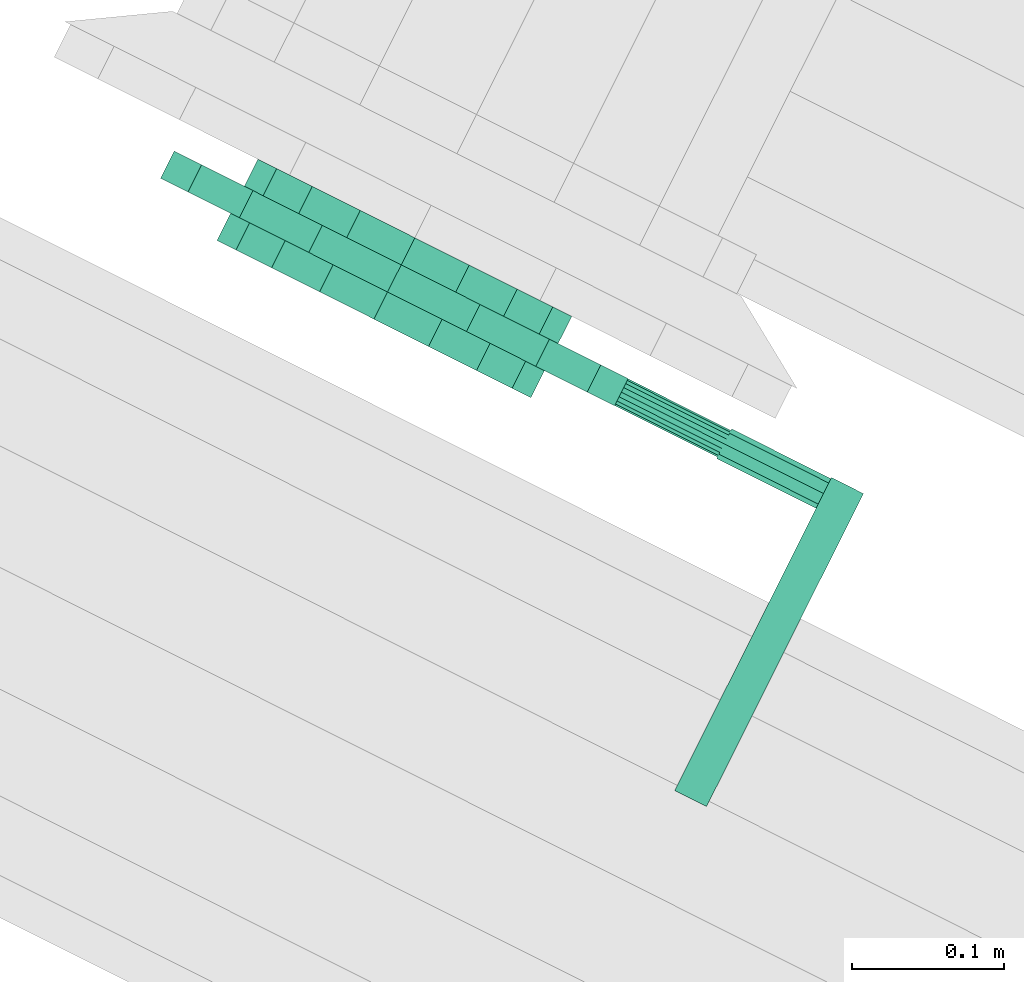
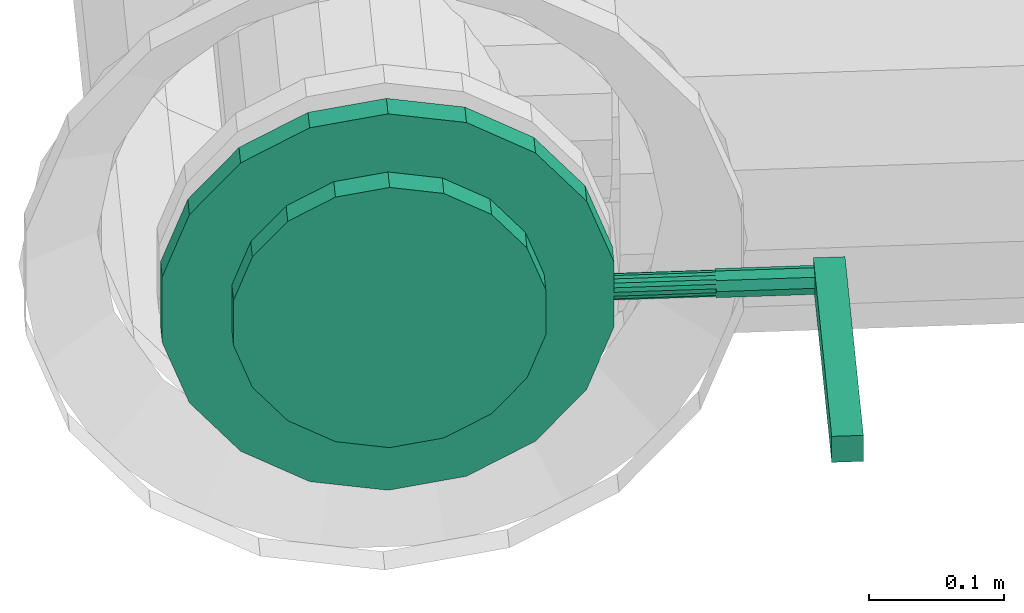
# One storey, part 80 of 152: 1 flow controller.
"""IFC2X3 building model written with IfcOpenShell, lengths in metres."""

import ifcopenshell
import ifcopenshell.guid

model = None  # the IFC model being written
_history = None  # IfcOwnerHistory: only IFC2X3 demands one
_inside = {}  # id of a spatial element -> (the spatial element, [elements in it])
_under = {}  # id of a project, library or spatial element -> (it, [spatial elements below it])
_declared = {}  # id of a project -> (the project, [libraries it declares])
_typed = {}  # id of a type object -> (the type object, [elements of that type])
_made_of = {}  # id of a material, layer set ... -> (it, [elements and type objects made of it])


def new_model(schema):
    """Start an empty IFC model of exactly this schema.

    Asked for "IFC4X3", IfcOpenShell would pick the latest addendum, in which some entities
    have other attributes; the version numbers below select the first issue.
    IFC2X3 requires an IfcOwnerHistory on every rooted entity: one is made here for all.
    """
    global model, _history
    if schema == "IFC4X3":
        model = ifcopenshell.file(schema_version=(4, 3, 0, 0))
    else:
        model = ifcopenshell.file(schema=schema)
    _inside.clear()
    _under.clear()
    _declared.clear()
    _typed.clear()
    _made_of.clear()
    _history = None
    if model.schema == "IFC2X3":
        org = make("IfcOrganization", Name="unknown")
        user = make(
            "IfcPersonAndOrganization",
            ThePerson=make("IfcPerson", FamilyName="unknown"),
            TheOrganization=org,
        )
        app = make(
            "IfcApplication",
            ApplicationDeveloper=org,
            Version="unknown",
            ApplicationFullName="unknown",
            ApplicationIdentifier="unknown",
        )
        _history = make(
            "IfcOwnerHistory",
            OwningUser=user,
            OwningApplication=app,
            ChangeAction="ADDED",
            CreationDate=0,
        )
    return model


def make(cls, **values):
    """One entity of the class cls with the attributes given. An attribute that is None is left unset."""
    return model.create_entity(
        cls, **{name: value for name, value in values.items() if value is not None}
    )


def rooted(cls, **values):
    """An entity with a GlobalId (a new one), such as an element, a storey or a relation."""
    return make(cls, GlobalId=ifcopenshell.guid.new(), OwnerHistory=_history, **values)


def si_unit(unit_type, name, prefix=None):
    """IfcSIUnit, for example si_unit("LENGTHUNIT", "METRE", prefix="MILLI")."""
    return make("IfcSIUnit", UnitType=unit_type, Prefix=prefix, Name=name)


def derived_unit(unit_type, elements):
    """IfcDerivedUnit: a product of units, each with its exponent."""
    return make(
        "IfcDerivedUnit",
        Elements=[
            make("IfcDerivedUnitElement", Unit=unit, Exponent=power)
            for unit, power in elements
        ],
        UnitType=unit_type,
    )


def assignment(units):
    """IfcUnitAssignment: the units of a project."""
    return None if units is None else make("IfcUnitAssignment", Units=units)


def point(xyz):
    """IfcCartesianPoint."""
    return None if xyz is None else make("IfcCartesianPoint", Coordinates=xyz)


def direction(xyz):
    """IfcDirection."""
    return None if xyz is None else make("IfcDirection", DirectionRatios=xyz)


def frame(location, z_axis=None, x_axis=None):
    """IfcAxis2Placement3D, a coordinate frame: its origin and axes. An axis left out is left unset."""
    return make(
        "IfcAxis2Placement3D",
        Location=point(location),
        Axis=direction(z_axis),
        RefDirection=direction(x_axis),
    )


def origin():
    """The frame at (0, 0, 0) with its axes left unset."""
    return frame((0.0, 0.0, 0.0))


def place(relative_to, where):
    """IfcLocalPlacement: puts the frame where relative to a parent placement (None: the world)."""
    return make(
        "IfcLocalPlacement", PlacementRelTo=relative_to, RelativePlacement=where
    )


def context(
    kind, dimensions, precision=None, world=None, true_north=None, identifier=None
):
    """IfcGeometricRepresentationContext, for example the 3D "Model" context."""
    return make(
        "IfcGeometricRepresentationContext",
        ContextIdentifier=identifier,
        ContextType=kind,
        CoordinateSpaceDimension=dimensions,
        Precision=precision,
        WorldCoordinateSystem=world,
        TrueNorth=true_north,
    )


def subcontext(parent, identifier, kind, view, scale=None):
    """IfcGeometricRepresentationSubContext, for example "Body" below "Model"."""
    return make(
        "IfcGeometricRepresentationSubContext",
        ContextIdentifier=identifier,
        ContextType=kind,
        ParentContext=parent,
        TargetScale=scale,
        TargetView=view,
    )


def project(units=None, contexts=None):
    """IfcProject with its units and contexts."""
    return rooted(
        "IfcProject",
        Name="project",
        RepresentationContexts=contexts,
        UnitsInContext=assignment(units),
    )


def spatial(cls, under=None, at=None, **own):
    """A site, building, storey or space (cls), placed at a placement, below another one or the project."""
    s = rooted(cls, ObjectPlacement=at, **own)
    if under is not None:
        _under.setdefault(under.id(), (under, []))[1].append(s)
    return s


def faces_of(points, faces, orient=None, outer=None):
    """IfcFace entities. A face is a list of loops; a loop is a list of indices into points, from 0.

    orient and outer hold one flag for each loop. By default every Orientation is true, the
    first loop of a face is its IfcFaceOuterBound and the others are IfcFaceBound.
    """
    made = []
    for i, loops in enumerate(faces):
        bounds = []
        for j, loop in enumerate(loops):
            is_outer = j == 0 if outer is None else outer[i][j]
            bounds.append(
                make(
                    "IfcFaceOuterBound" if is_outer else "IfcFaceBound",
                    Bound=make("IfcPolyLoop", Polygon=[points[k] for k in loop]),
                    Orientation=True if orient is None else orient[i][j],
                )
            )
        made.append(make("IfcFace", Bounds=bounds))
    return made


def face_set(faces, orient=None, outer=None):
    """The faces of one IfcConnectedFaceSet. surface_model builds it on its shared points."""
    return ("IfcConnectedFaceSet", faces, orient, outer)


def surface_model(cls, points, shells):
    """IfcFaceBasedSurfaceModel or IfcShellBasedSurfaceModel (cls): surfaces that need not close."""
    shared = [point(p) for p in points]
    made = [make(c, CfsFaces=faces_of(shared, fs, o, b)) for c, fs, o, b in shells]
    if cls == "IfcFaceBasedSurfaceModel":
        return make(cls, FbsmFaces=made)
    return make(cls, SbsmBoundary=made)


def shape(context_of_items, identifier, shape_type, items):
    """IfcShapeRepresentation: the items that make up one representation, for example the "Body"."""
    return make(
        "IfcShapeRepresentation",
        ContextOfItems=context_of_items,
        RepresentationIdentifier=identifier,
        RepresentationType=shape_type,
        Items=items,
    )


def source(mapping_origin, context_of_items, identifier, shape_type, items):
    """IfcRepresentationMap: a shape defined once, which mapped items show again and again."""
    return make(
        "IfcRepresentationMap",
        MappingOrigin=mapping_origin,
        MappedRepresentation=shape(context_of_items, identifier, shape_type, items),
    )


def transform(
    local_origin,
    x_axis=None,
    y_axis=None,
    z_axis=None,
    scale=None,
    scale2=None,
    scale3=None,
    uniform=True,
):
    """IfcCartesianTransformationOperator3D, or its non-uniform kind. x_axis, y_axis, z_axis: its Axis1, 2, 3."""
    if uniform:
        return make(
            "IfcCartesianTransformationOperator3D",
            Axis1=direction(x_axis),
            Axis2=direction(y_axis),
            LocalOrigin=point(local_origin),
            Scale=scale,
            Axis3=direction(z_axis),
        )
    return make(
        "IfcCartesianTransformationOperator3DnonUniform",
        Axis1=direction(x_axis),
        Axis2=direction(y_axis),
        LocalOrigin=point(local_origin),
        Scale=scale,
        Axis3=direction(z_axis),
        Scale2=scale2,
        Scale3=scale3,
    )


def mapped(mapping_source, mapping_target):
    """IfcMappedItem: shows the shape of a source again, moved by a transform."""
    return make(
        "IfcMappedItem", MappingSource=mapping_source, MappingTarget=mapping_target
    )


def material(Name=None, Category=None):
    """IfcMaterial."""
    return make("IfcMaterial", Name=Name, Category=Category)


def made_of(thing, what):
    """Note that an element or type object is made of a material, layer set ...; save() writes the relation."""
    if what is not None:
        _made_of.setdefault(what.id(), (what, []))[1].append(thing)
    return thing


def type_object(cls, material=None, **own):
    """A type object (cls), such as IfcWallType, which elements share."""
    return made_of(rooted(cls, **own), material)


def type_shapes(of_type, sources):
    """Give a type object the sources (RepresentationMaps) that its elements show as mapped items."""
    of_type.RepresentationMaps = sources


def element(
    cls,
    number,
    at=None,
    inside=None,
    cuts=None,
    type_object=None,
    material=None,
    context=None,
    identifier="Body",
    shape_type=None,
    held_by="IfcProductDefinitionShape",
    body=None,
    shapes=None,
    **own,
):
    """One element of the class cls, such as IfcWall. Its Tag is "e" and its number.

    at: its placement. inside: the storey or other place that contains it. cuts: it is an
    opening in that element (IfcRelVoidsElement). A single representation is given by context,
    identifier, shape_type and body (its items); several are given by shapes. held_by: the class
    of the entity that holds the representations. save() writes the other relations.
    """
    e = rooted(cls, Tag="e%d" % number, ObjectPlacement=at, **own)
    if body is not None:
        shapes = [shape(context, identifier, shape_type, body)]
    if shapes is not None:
        e.Representation = make(held_by, Representations=shapes)
    if inside is not None:
        _inside.setdefault(inside.id(), (inside, []))[1].append(e)
    if cuts is not None:
        rooted(
            "IfcRelVoidsElement", RelatingBuildingElement=cuts, RelatedOpeningElement=e
        )
    if type_object is not None:
        _typed.setdefault(type_object.id(), (type_object, []))[1].append(e)
    return made_of(e, material)


def aggregate(whole, parts):
    """IfcRelAggregates: a whole, such as a stair, and the parts it consists of."""
    return rooted("IfcRelAggregates", RelatingObject=whole, RelatedObjects=parts)


def save(model, path):
    """Write the relations noted so far, then the file.

    IfcRelAggregates (storeys below a building ...), IfcRelContainedInSpatialStructure (elements
    in a storey), IfcRelDefinesByType, IfcRelAssociatesMaterial and IfcRelDeclares: one each for
    every whole, place, type object, material and project.
    """
    for whole, parts in _under.values():
        aggregate(whole, parts)
    for where, things in _inside.values():
        rooted(
            "IfcRelContainedInSpatialStructure",
            RelatedElements=things,
            RelatingStructure=where,
        )
    for kind, things in _typed.values():
        rooted("IfcRelDefinesByType", RelatedObjects=things, RelatingType=kind)
    for what, things in _made_of.values():
        rooted("IfcRelAssociatesMaterial", RelatedObjects=things, RelatingMaterial=what)
    for by, libraries in _declared.values():
        rooted("IfcRelDeclares", RelatingContext=by, RelatedDefinitions=libraries)
    model.write(path)


model = new_model("IFC2X3")

# Units and contexts
model_context = context("Model", 3, precision=5.2338327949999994e-05, world=origin(), true_north=direction((0.0, 1.0)))
body_context = subcontext(model_context, "Body", "Model", "MODEL_VIEW")
ifc_project = project(units=[si_unit("LENGTHUNIT", "METRE"), si_unit("AREAUNIT", "SQUARE_METRE"), si_unit("VOLUMEUNIT", "CUBIC_METRE"), si_unit("MASSUNIT", "GRAM", prefix="KILO"), si_unit("PLANEANGLEUNIT", "RADIAN"), derived_unit("THERMALTRANSMITTANCEUNIT", [(si_unit("MASSUNIT", "GRAM", prefix="KILO"), 1), (si_unit("THERMODYNAMICTEMPERATUREUNIT", "KELVIN"), -1), (si_unit("TIMEUNIT", "SECOND"), -3)])], contexts=[model_context])

# Site, building, storey
site_placement = place(None, frame((0.0, 0.0, 0.0), z_axis=(0.0, 0.0, 1.0), x_axis=(0.8939966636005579, -0.4480736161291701, 0.0)))
site = spatial("IfcSite", under=ifc_project, at=site_placement, Name="Default", CompositionType="ELEMENT")
building_placement = place(site_placement, origin())
building = spatial("IfcBuilding", under=site, at=building_placement, CompositionType="ELEMENT")
storey_placement = place(building_placement, frame((0.0, 0.0, 2.7499999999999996)))
storey = spatial("IfcBuildingStorey", under=building, at=storey_placement, Name="1. Obergeschoss", CompositionType="ELEMENT", Elevation=2.7499999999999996)

# Flow controller
ifc_material = material(Name="IfcSurfaceStyle #1741")
distribution_element_type = type_object("IfcDistributionElementType", Name="Zwischenflanschklappe 253202:Zwischenflanschklappe 253202", material=ifc_material)
shared_shape = source(origin(), body_context, "Body", "SurfaceModel", [
    surface_model("IfcFaceBasedSurfaceModel", [(33.42502236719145, 8.701789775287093, 5.647390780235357), (33.42502236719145, 8.932639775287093, 5.647390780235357), (33.42502236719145, 8.932639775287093, 5.623890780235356), (33.42502236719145, 8.701789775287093, 5.623890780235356), (33.44852236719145, 8.932639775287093, 5.623890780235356), (33.44852236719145, 8.701789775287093, 5.623890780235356), (33.44852236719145, 8.932639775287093, 5.647390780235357), (33.44852236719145, 8.701789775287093, 5.647390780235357), (33.108522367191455, 8.890889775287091, 5.518140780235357), (33.068335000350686, 8.890889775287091, 5.525226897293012), (33.068335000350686, 8.910889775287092, 5.525226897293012), (33.108522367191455, 8.910889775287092, 5.518140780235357), (33.032994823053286, 8.890889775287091, 5.545630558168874), (33.032994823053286, 8.910889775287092, 5.545630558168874), (33.00676438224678, 8.890889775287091, 5.576890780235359), (33.00676438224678, 8.910889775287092, 5.576890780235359), (32.99280745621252, 8.890889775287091, 5.615237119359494), (32.99280745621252, 8.910889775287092, 5.615237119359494), (32.99280745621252, 8.890889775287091, 5.65604444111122), (32.99280745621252, 8.910889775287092, 5.65604444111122), (33.00676438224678, 8.890889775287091, 5.694390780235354), (33.00676438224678, 8.910889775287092, 5.694390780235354), (33.032994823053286, 8.890889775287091, 5.725651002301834), (33.032994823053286, 8.910889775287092, 5.725651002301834), (33.068335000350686, 8.890889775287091, 5.7460546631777), (33.068335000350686, 8.910889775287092, 5.7460546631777), (33.108522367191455, 8.890889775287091, 5.753140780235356), (33.108522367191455, 8.910889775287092, 5.753140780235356), (33.14870973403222, 8.890889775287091, 5.7460546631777), (33.14870973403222, 8.910889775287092, 5.7460546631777), (33.18404991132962, 8.890889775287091, 5.725651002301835), (33.18404991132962, 8.910889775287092, 5.725651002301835), (33.210280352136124, 8.890889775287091, 5.694390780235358), (33.210280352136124, 8.910889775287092, 5.694390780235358), (33.224237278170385, 8.890889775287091, 5.65604444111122), (33.224237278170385, 8.910889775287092, 5.65604444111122), (33.224237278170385, 8.890889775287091, 5.6152371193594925), (33.224237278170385, 8.910889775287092, 5.6152371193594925), (33.210280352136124, 8.890889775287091, 5.576890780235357), (33.210280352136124, 8.910889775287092, 5.576890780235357), (33.18404991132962, 8.890889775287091, 5.545630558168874), (33.18404991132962, 8.910889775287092, 5.545630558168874), (33.14870973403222, 8.890889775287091, 5.525226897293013), (33.14870973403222, 8.910889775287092, 5.525226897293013), (33.108522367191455, 8.890889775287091, 5.635640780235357), (33.108522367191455, 8.910889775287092, 5.635640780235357), (33.108522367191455, 8.910889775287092, 5.465640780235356), (33.050378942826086, 8.910889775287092, 5.475893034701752), (33.050378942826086, 8.930889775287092, 5.475893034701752), (33.108522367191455, 8.930889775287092, 5.465640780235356), (32.99924847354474, 8.910889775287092, 5.505413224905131), (32.99924847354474, 8.930889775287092, 5.505413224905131), (32.9612980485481, 8.910889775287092, 5.550640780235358), (32.9612980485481, 8.930889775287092, 5.550640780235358), (32.94110504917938, 8.910889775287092, 5.606120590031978), (32.94110504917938, 8.930889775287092, 5.606120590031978), (32.94110504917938, 8.910889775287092, 5.665160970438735), (32.94110504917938, 8.930889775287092, 5.665160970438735), (32.9612980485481, 8.910889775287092, 5.720640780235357), (32.9612980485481, 8.930889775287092, 5.720640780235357), (32.99924847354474, 8.910889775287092, 5.765868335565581), (32.99924847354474, 8.930889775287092, 5.765868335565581), (33.050378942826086, 8.910889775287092, 5.795388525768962), (33.050378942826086, 8.930889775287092, 5.795388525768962), (33.108522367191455, 8.910889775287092, 5.805640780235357), (33.108522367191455, 8.930889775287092, 5.805640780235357), (33.16666579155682, 8.910889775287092, 5.795388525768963), (33.16666579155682, 8.930889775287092, 5.795388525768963), (33.21779626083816, 8.910889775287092, 5.765868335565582), (33.21779626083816, 8.930889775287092, 5.765868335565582), (33.25574668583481, 8.910889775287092, 5.720640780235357), (33.25574668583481, 8.930889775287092, 5.720640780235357), (33.275939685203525, 8.910889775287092, 5.665160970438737), (33.275939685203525, 8.930889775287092, 5.665160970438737), (33.275939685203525, 8.910889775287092, 5.606120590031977), (33.275939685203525, 8.930889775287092, 5.606120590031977), (33.25574668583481, 8.910889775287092, 5.550640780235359), (33.25574668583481, 8.930889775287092, 5.550640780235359), (33.21779626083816, 8.910889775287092, 5.505413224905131), (33.21779626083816, 8.930889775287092, 5.505413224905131), (33.16666579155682, 8.910889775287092, 5.475893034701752), (33.16666579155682, 8.930889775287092, 5.475893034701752), (33.108522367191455, 8.930889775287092, 5.635640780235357), (33.108522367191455, 8.930889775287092, 5.518140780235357), (33.068335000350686, 8.930889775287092, 5.525226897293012), (33.068335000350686, 8.950889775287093, 5.525226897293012), (33.108522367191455, 8.950889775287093, 5.518140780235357), (33.032994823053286, 8.930889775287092, 5.545630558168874), (33.032994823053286, 8.950889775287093, 5.545630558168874), (33.00676438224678, 8.930889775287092, 5.576890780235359), (33.00676438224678, 8.950889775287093, 5.576890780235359), (32.99280745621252, 8.930889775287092, 5.615237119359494), (32.99280745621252, 8.950889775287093, 5.615237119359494), (32.99280745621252, 8.930889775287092, 5.65604444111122), (32.99280745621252, 8.950889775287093, 5.65604444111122), (33.00676438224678, 8.930889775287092, 5.694390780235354), (33.00676438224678, 8.950889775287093, 5.694390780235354), (33.032994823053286, 8.930889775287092, 5.725651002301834), (33.032994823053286, 8.950889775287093, 5.725651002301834), (33.068335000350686, 8.930889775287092, 5.7460546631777), (33.068335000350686, 8.950889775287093, 5.7460546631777), (33.108522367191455, 8.930889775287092, 5.753140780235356), (33.108522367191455, 8.950889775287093, 5.753140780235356), (33.14870973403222, 8.930889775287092, 5.7460546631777), (33.14870973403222, 8.950889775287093, 5.7460546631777), (33.18404991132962, 8.930889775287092, 5.725651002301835), (33.18404991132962, 8.950889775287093, 5.725651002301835), (33.210280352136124, 8.930889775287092, 5.694390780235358), (33.210280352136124, 8.950889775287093, 5.694390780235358), (33.224237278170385, 8.930889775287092, 5.65604444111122), (33.224237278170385, 8.950889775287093, 5.65604444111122), (33.224237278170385, 8.930889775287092, 5.6152371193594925), (33.224237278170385, 8.950889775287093, 5.6152371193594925), (33.210280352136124, 8.930889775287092, 5.576890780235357), (33.210280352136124, 8.950889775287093, 5.576890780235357), (33.18404991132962, 8.930889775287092, 5.545630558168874), (33.18404991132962, 8.950889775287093, 5.545630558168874), (33.14870973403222, 8.930889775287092, 5.525226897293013), (33.14870973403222, 8.950889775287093, 5.525226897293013), (33.108522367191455, 8.950889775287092, 5.635640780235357), (33.108522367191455, 8.920889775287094, 5.625640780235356), (33.108522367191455, 8.92430997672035, 5.626243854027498), (33.35177236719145, 8.92430997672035, 5.626243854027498), (33.35177236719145, 8.920889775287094, 5.625640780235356), (33.108522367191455, 8.927317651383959, 5.627980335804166), (33.35177236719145, 8.927317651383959, 5.627980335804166), (33.108522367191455, 8.929550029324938, 5.630640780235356), (33.35177236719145, 8.929550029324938, 5.630640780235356), (33.108522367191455, 8.930737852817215, 5.633904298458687), (33.35177236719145, 8.930737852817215, 5.633904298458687), (33.108522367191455, 8.930737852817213, 5.637377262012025), (33.35177236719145, 8.930737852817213, 5.637377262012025), (33.108522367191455, 8.929550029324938, 5.640640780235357), (33.35177236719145, 8.929550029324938, 5.640640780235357), (33.108522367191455, 8.927317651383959, 5.643301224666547), (33.35177236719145, 8.927317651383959, 5.643301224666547), (33.108522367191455, 8.92430997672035, 5.645037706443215), (33.35177236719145, 8.92430997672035, 5.645037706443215), (33.108522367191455, 8.920889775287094, 5.6456407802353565), (33.35177236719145, 8.920889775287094, 5.6456407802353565), (33.108522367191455, 8.917469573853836, 5.6450377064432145), (33.35177236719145, 8.917469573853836, 5.6450377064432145), (33.108522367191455, 8.914461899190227, 5.643301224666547), (33.35177236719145, 8.914461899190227, 5.643301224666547), (33.108522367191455, 8.912229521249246, 5.640640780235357), (33.35177236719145, 8.912229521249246, 5.640640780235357), (33.108522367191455, 8.91104169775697, 5.637377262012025), (33.35177236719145, 8.91104169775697, 5.637377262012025), (33.108522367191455, 8.911041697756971, 5.633904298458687), (33.35177236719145, 8.911041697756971, 5.633904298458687), (33.108522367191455, 8.912229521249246, 5.630640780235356), (33.35177236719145, 8.912229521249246, 5.630640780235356), (33.108522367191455, 8.914461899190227, 5.627980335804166), (33.35177236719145, 8.914461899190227, 5.627980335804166), (33.108522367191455, 8.917469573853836, 5.626243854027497), (33.35177236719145, 8.917469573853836, 5.626243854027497), (33.108522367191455, 8.920889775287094, 5.635640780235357), (33.35177236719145, 8.920889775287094, 5.635640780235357), (33.35177236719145, 8.920889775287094, 5.624685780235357), (33.35177236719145, 8.928636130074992, 5.627894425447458), (33.42502236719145, 8.928636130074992, 5.627894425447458), (33.42502236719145, 8.920889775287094, 5.624685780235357), (33.35177236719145, 8.931844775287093, 5.635640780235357), (33.42502236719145, 8.931844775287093, 5.635640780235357), (33.35177236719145, 8.928636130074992, 5.643387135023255), (33.42502236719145, 8.928636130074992, 5.643387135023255), (33.35177236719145, 8.920889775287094, 5.646595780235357), (33.42502236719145, 8.920889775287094, 5.646595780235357), (33.35177236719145, 8.913143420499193, 5.643387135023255), (33.42502236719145, 8.913143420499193, 5.643387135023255), (33.35177236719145, 8.909934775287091, 5.635640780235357), (33.42502236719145, 8.909934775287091, 5.635640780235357), (33.35177236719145, 8.913143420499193, 5.627894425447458), (33.42502236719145, 8.913143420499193, 5.627894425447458), (33.42502236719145, 8.920889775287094, 5.635640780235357)], [face_set([[[0, 1, 2, 3]], [[3, 2, 4, 5]], [[5, 4, 6, 7]], [[7, 6, 1, 0]], [[0, 3, 5, 7]], [[6, 4, 2, 1]], [[8, 9, 10, 11]], [[9, 12, 13, 10]], [[12, 14, 15, 13]], [[14, 16, 17, 15]], [[16, 18, 19, 17]], [[18, 20, 21, 19]], [[20, 22, 23, 21]], [[22, 24, 25, 23]], [[24, 26, 27, 25]], [[26, 28, 29, 27]], [[28, 30, 31, 29]], [[30, 32, 33, 31]], [[32, 34, 35, 33]], [[34, 36, 37, 35]], [[36, 38, 39, 37]], [[38, 40, 41, 39]], [[40, 42, 43, 41]], [[42, 8, 11, 43]], [[44, 9, 8]], [[44, 12, 9]], [[44, 14, 12]], [[44, 16, 14]], [[44, 18, 16]], [[44, 20, 18]], [[44, 22, 20]], [[44, 24, 22]], [[44, 26, 24]], [[44, 28, 26]], [[44, 30, 28]], [[44, 32, 30]], [[44, 34, 32]], [[44, 36, 34]], [[44, 38, 36]], [[44, 40, 38]], [[44, 42, 40]], [[44, 8, 42]], [[45, 43, 11]], [[45, 41, 43]], [[45, 39, 41]], [[45, 37, 39]], [[45, 35, 37]], [[45, 33, 35]], [[45, 31, 33]], [[45, 29, 31]], [[45, 27, 29]], [[45, 25, 27]], [[45, 23, 25]], [[45, 21, 23]], [[45, 19, 21]], [[45, 17, 19]], [[45, 15, 17]], [[45, 13, 15]], [[45, 10, 13]], [[45, 11, 10]], [[46, 47, 48, 49]], [[47, 50, 51, 48]], [[50, 52, 53, 51]], [[52, 54, 55, 53]], [[54, 56, 57, 55]], [[56, 58, 59, 57]], [[58, 60, 61, 59]], [[60, 62, 63, 61]], [[62, 64, 65, 63]], [[64, 66, 67, 65]], [[66, 68, 69, 67]], [[68, 70, 71, 69]], [[70, 72, 73, 71]], [[72, 74, 75, 73]], [[74, 76, 77, 75]], [[76, 78, 79, 77]], [[78, 80, 81, 79]], [[80, 46, 49, 81]], [[45, 47, 46]], [[45, 50, 47]], [[45, 52, 50]], [[45, 54, 52]], [[45, 56, 54]], [[45, 58, 56]], [[45, 60, 58]], [[45, 62, 60]], [[45, 64, 62]], [[45, 66, 64]], [[45, 68, 66]], [[45, 70, 68]], [[45, 72, 70]], [[45, 74, 72]], [[45, 76, 74]], [[45, 78, 76]], [[45, 80, 78]], [[45, 46, 80]], [[82, 81, 49]], [[82, 79, 81]], [[82, 77, 79]], [[82, 75, 77]], [[82, 73, 75]], [[82, 71, 73]], [[82, 69, 71]], [[82, 67, 69]], [[82, 65, 67]], [[82, 63, 65]], [[82, 61, 63]], [[82, 59, 61]], [[82, 57, 59]], [[82, 55, 57]], [[82, 53, 55]], [[82, 51, 53]], [[82, 48, 51]], [[82, 49, 48]], [[83, 84, 85, 86]], [[84, 87, 88, 85]], [[87, 89, 90, 88]], [[89, 91, 92, 90]], [[91, 93, 94, 92]], [[93, 95, 96, 94]], [[95, 97, 98, 96]], [[97, 99, 100, 98]], [[99, 101, 102, 100]], [[101, 103, 104, 102]], [[103, 105, 106, 104]], [[105, 107, 108, 106]], [[107, 109, 110, 108]], [[109, 111, 112, 110]], [[111, 113, 114, 112]], [[113, 115, 116, 114]], [[115, 117, 118, 116]], [[117, 83, 86, 118]], [[82, 84, 83]], [[82, 87, 84]], [[82, 89, 87]], [[82, 91, 89]], [[82, 93, 91]], [[82, 95, 93]], [[82, 97, 95]], [[82, 99, 97]], [[82, 101, 99]], [[82, 103, 101]], [[82, 105, 103]], [[82, 107, 105]], [[82, 109, 107]], [[82, 111, 109]], [[82, 113, 111]], [[82, 115, 113]], [[82, 117, 115]], [[82, 83, 117]], [[119, 118, 86]], [[119, 116, 118]], [[119, 114, 116]], [[119, 112, 114]], [[119, 110, 112]], [[119, 108, 110]], [[119, 106, 108]], [[119, 104, 106]], [[119, 102, 104]], [[119, 100, 102]], [[119, 98, 100]], [[119, 96, 98]], [[119, 94, 96]], [[119, 92, 94]], [[119, 90, 92]], [[119, 88, 90]], [[119, 85, 88]], [[119, 86, 85]], [[120, 121, 122, 123]], [[121, 124, 125, 122]], [[124, 126, 127, 125]], [[126, 128, 129, 127]], [[128, 130, 131, 129]], [[130, 132, 133, 131]], [[132, 134, 135, 133]], [[134, 136, 137, 135]], [[136, 138, 139, 137]], [[138, 140, 141, 139]], [[140, 142, 143, 141]], [[142, 144, 145, 143]], [[144, 146, 147, 145]], [[146, 148, 149, 147]], [[148, 150, 151, 149]], [[150, 152, 153, 151]], [[152, 154, 155, 153]], [[154, 120, 123, 155]], [[156, 121, 120]], [[156, 124, 121]], [[156, 126, 124]], [[156, 128, 126]], [[156, 130, 128]], [[156, 132, 130]], [[156, 134, 132]], [[156, 136, 134]], [[156, 138, 136]], [[156, 140, 138]], [[156, 142, 140]], [[156, 144, 142]], [[156, 146, 144]], [[156, 148, 146]], [[156, 150, 148]], [[156, 152, 150]], [[156, 154, 152]], [[156, 120, 154]], [[157, 155, 123]], [[157, 153, 155]], [[157, 151, 153]], [[157, 149, 151]], [[157, 147, 149]], [[157, 145, 147]], [[157, 143, 145]], [[157, 141, 143]], [[157, 139, 141]], [[157, 137, 139]], [[157, 135, 137]], [[157, 133, 135]], [[157, 131, 133]], [[157, 129, 131]], [[157, 127, 129]], [[157, 125, 127]], [[157, 122, 125]], [[157, 123, 122]], [[158, 159, 160, 161]], [[159, 162, 163, 160]], [[162, 164, 165, 163]], [[164, 166, 167, 165]], [[166, 168, 169, 167]], [[168, 170, 171, 169]], [[170, 172, 173, 171]], [[172, 158, 161, 173]], [[174, 173, 161]], [[174, 171, 173]], [[174, 169, 171]], [[174, 167, 169]], [[174, 165, 167]], [[174, 163, 165]], [[174, 160, 163]], [[174, 161, 160]]])]),
])
type_shapes(distribution_element_type, [shared_shape])
flow_controller_placement = place(storey_placement, frame((0.0, 0.0, -2.7499999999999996)))
element("IfcFlowController", 1, at=flow_controller_placement, inside=storey, type_object=distribution_element_type, material=ifc_material, Name="Zwischenflanschklappe", ObjectType="Zwischenflanschklappe", context=body_context, shape_type="MappedRepresentation", body=[
    mapped(shared_shape, transform((0.0, 0.0, 0.0), scale=1.0)),
])

save(model, "model.ifc")
